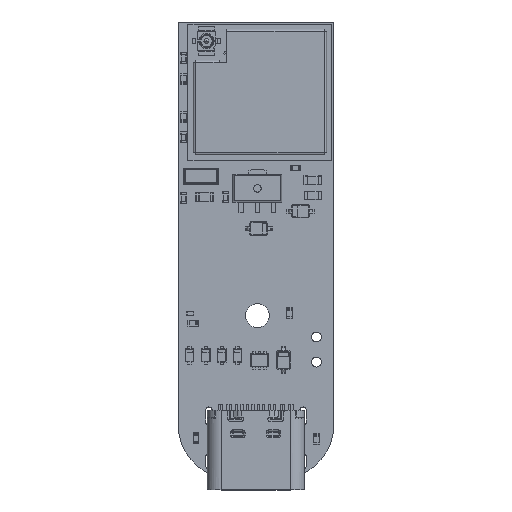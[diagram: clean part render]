
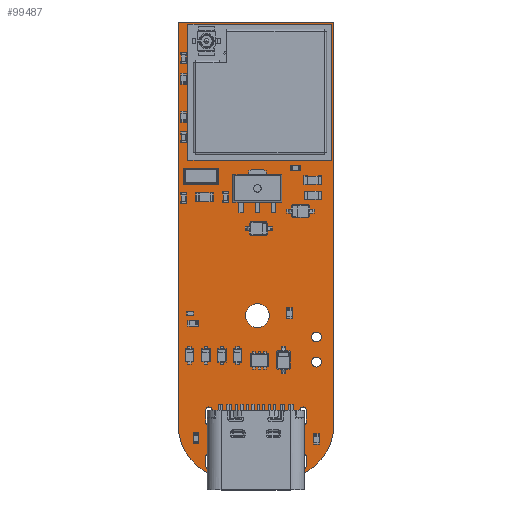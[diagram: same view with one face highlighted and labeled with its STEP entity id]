
A CAD part, top view. The second image highlights one B-rep face of the part: STEP entity #99487.
In plain terms, the highlighted planar face has unit normal (0, 0, 1).
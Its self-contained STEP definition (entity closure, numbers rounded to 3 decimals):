
#99157 = VERTEX_POINT('',#99158);
#99158 = CARTESIAN_POINT('',(108.1,-64.6,0.6));
#99164 = EDGE_CURVE('',#99157,#99165,#99167,.T.);
#99165 = VERTEX_POINT('',#99166);
#99166 = CARTESIAN_POINT('',(103.1,-69.6,0.6));
#99167 = CIRCLE('',#99168,5.);
#99168 = AXIS2_PLACEMENT_3D('',#99169,#99170,#99171);
#99169 = CARTESIAN_POINT('',(103.1,-64.6,0.6));
#99170 = DIRECTION('',(0.,0.,-1.));
#99171 = DIRECTION('',(1.,0.,0.));
#99199 = VERTEX_POINT('',#99200);
#99200 = CARTESIAN_POINT('',(108.1,-27.6,0.6));
#99206 = EDGE_CURVE('',#99199,#99157,#99207,.T.);
#99207 = LINE('',#99208,#99209);
#99208 = CARTESIAN_POINT('',(108.1,-27.6,0.6));
#99209 = VECTOR('',#99210,1.);
#99210 = DIRECTION('',(0.,-1.,0.));
#99228 = EDGE_CURVE('',#99165,#99229,#99231,.T.);
#99229 = VERTEX_POINT('',#99230);
#99230 = CARTESIAN_POINT('',(98.8,-69.6,0.6));
#99231 = LINE('',#99232,#99233);
#99232 = CARTESIAN_POINT('',(103.1,-69.6,0.6));
#99233 = VECTOR('',#99234,1.);
#99234 = DIRECTION('',(-1.,0.,0.));
#99487 = ADVANCED_FACE('',(#99488,#99516,#99552,#99588,#99599,#99635,
    #99646,#99682,#99693,#99704),#99715,.T.);
#99488 = FACE_BOUND('',#99489,.T.);
#99489 = EDGE_LOOP('',(#99490,#99491,#99492,#99500,#99508,#99515));
#99490 = ORIENTED_EDGE('',*,*,#99164,.F.);
#99491 = ORIENTED_EDGE('',*,*,#99206,.F.);
#99492 = ORIENTED_EDGE('',*,*,#99493,.F.);
#99493 = EDGE_CURVE('',#99494,#99199,#99496,.T.);
#99494 = VERTEX_POINT('',#99495);
#99495 = CARTESIAN_POINT('',(93.8,-27.6,0.6));
#99496 = LINE('',#99497,#99498);
#99497 = CARTESIAN_POINT('',(93.8,-27.6,0.6));
#99498 = VECTOR('',#99499,1.);
#99499 = DIRECTION('',(1.,0.,0.));
#99500 = ORIENTED_EDGE('',*,*,#99501,.F.);
#99501 = EDGE_CURVE('',#99502,#99494,#99504,.T.);
#99502 = VERTEX_POINT('',#99503);
#99503 = CARTESIAN_POINT('',(93.8,-64.6,0.6));
#99504 = LINE('',#99505,#99506);
#99505 = CARTESIAN_POINT('',(93.8,-64.6,0.6));
#99506 = VECTOR('',#99507,1.);
#99507 = DIRECTION('',(0.,1.,0.));
#99508 = ORIENTED_EDGE('',*,*,#99509,.F.);
#99509 = EDGE_CURVE('',#99229,#99502,#99510,.T.);
#99510 = CIRCLE('',#99511,5.);
#99511 = AXIS2_PLACEMENT_3D('',#99512,#99513,#99514);
#99512 = CARTESIAN_POINT('',(98.8,-64.6,0.6));
#99513 = DIRECTION('',(0.,0.,-1.));
#99514 = DIRECTION('',(0.,-1.,0.));
#99515 = ORIENTED_EDGE('',*,*,#99228,.F.);
#99516 = FACE_BOUND('',#99517,.T.);
#99517 = EDGE_LOOP('',(#99518,#99529,#99537,#99546));
#99518 = ORIENTED_EDGE('',*,*,#99519,.T.);
#99519 = EDGE_CURVE('',#99520,#99522,#99524,.T.);
#99520 = VERTEX_POINT('',#99521);
#99521 = CARTESIAN_POINT('',(96.925,-68.37,0.6));
#99522 = VERTEX_POINT('',#99523);
#99523 = CARTESIAN_POINT('',(96.325,-68.37,0.6));
#99524 = CIRCLE('',#99525,0.3);
#99525 = AXIS2_PLACEMENT_3D('',#99526,#99527,#99528);
#99526 = CARTESIAN_POINT('',(96.625,-68.37,0.6));
#99527 = DIRECTION('',(-0.,0.,-1.));
#99528 = DIRECTION('',(-1.,0.,0.));
#99529 = ORIENTED_EDGE('',*,*,#99530,.T.);
#99530 = EDGE_CURVE('',#99522,#99531,#99533,.T.);
#99531 = VERTEX_POINT('',#99532);
#99532 = CARTESIAN_POINT('',(96.325,-67.57,0.6));
#99533 = LINE('',#99534,#99535);
#99534 = CARTESIAN_POINT('',(96.325,-33.785,0.6));
#99535 = VECTOR('',#99536,1.);
#99536 = DIRECTION('',(-0.,1.,0.));
#99537 = ORIENTED_EDGE('',*,*,#99538,.T.);
#99538 = EDGE_CURVE('',#99531,#99539,#99541,.T.);
#99539 = VERTEX_POINT('',#99540);
#99540 = CARTESIAN_POINT('',(96.925,-67.57,0.6));
#99541 = CIRCLE('',#99542,0.3);
#99542 = AXIS2_PLACEMENT_3D('',#99543,#99544,#99545);
#99543 = CARTESIAN_POINT('',(96.625,-67.57,0.6));
#99544 = DIRECTION('',(0.,-0.,-1.));
#99545 = DIRECTION('',(1.,0.,-0.));
#99546 = ORIENTED_EDGE('',*,*,#99547,.T.);
#99547 = EDGE_CURVE('',#99539,#99520,#99548,.T.);
#99548 = LINE('',#99549,#99550);
#99549 = CARTESIAN_POINT('',(96.925,-34.185,0.6));
#99550 = VECTOR('',#99551,1.);
#99551 = DIRECTION('',(0.,-1.,0.));
#99552 = FACE_BOUND('',#99553,.T.);
#99553 = EDGE_LOOP('',(#99554,#99565,#99573,#99582));
#99554 = ORIENTED_EDGE('',*,*,#99555,.T.);
#99555 = EDGE_CURVE('',#99556,#99558,#99560,.T.);
#99556 = VERTEX_POINT('',#99557);
#99557 = CARTESIAN_POINT('',(96.925,-64.37,0.6));
#99558 = VERTEX_POINT('',#99559);
#99559 = CARTESIAN_POINT('',(96.325,-64.37,0.6));
#99560 = CIRCLE('',#99561,0.3);
#99561 = AXIS2_PLACEMENT_3D('',#99562,#99563,#99564);
#99562 = CARTESIAN_POINT('',(96.625,-64.37,0.6));
#99563 = DIRECTION('',(-0.,0.,-1.));
#99564 = DIRECTION('',(-1.,0.,0.));
#99565 = ORIENTED_EDGE('',*,*,#99566,.T.);
#99566 = EDGE_CURVE('',#99558,#99567,#99569,.T.);
#99567 = VERTEX_POINT('',#99568);
#99568 = CARTESIAN_POINT('',(96.325,-63.27,0.6));
#99569 = LINE('',#99570,#99571);
#99570 = CARTESIAN_POINT('',(96.325,-31.635,0.6));
#99571 = VECTOR('',#99572,1.);
#99572 = DIRECTION('',(-0.,1.,0.));
#99573 = ORIENTED_EDGE('',*,*,#99574,.T.);
#99574 = EDGE_CURVE('',#99567,#99575,#99577,.T.);
#99575 = VERTEX_POINT('',#99576);
#99576 = CARTESIAN_POINT('',(96.925,-63.27,0.6));
#99577 = CIRCLE('',#99578,0.3);
#99578 = AXIS2_PLACEMENT_3D('',#99579,#99580,#99581);
#99579 = CARTESIAN_POINT('',(96.625,-63.27,0.6));
#99580 = DIRECTION('',(0.,-0.,-1.));
#99581 = DIRECTION('',(1.,0.,-0.));
#99582 = ORIENTED_EDGE('',*,*,#99583,.T.);
#99583 = EDGE_CURVE('',#99575,#99556,#99584,.T.);
#99584 = LINE('',#99585,#99586);
#99585 = CARTESIAN_POINT('',(96.925,-32.185,0.6));
#99586 = VECTOR('',#99587,1.);
#99587 = DIRECTION('',(0.,-1.,0.));
#99588 = FACE_BOUND('',#99589,.T.);
#99589 = EDGE_LOOP('',(#99590));
#99590 = ORIENTED_EDGE('',*,*,#99591,.T.);
#99591 = EDGE_CURVE('',#99592,#99592,#99594,.T.);
#99592 = VERTEX_POINT('',#99593);
#99593 = CARTESIAN_POINT('',(98.06,-64.645,0.6));
#99594 = CIRCLE('',#99595,0.325);
#99595 = AXIS2_PLACEMENT_3D('',#99596,#99597,#99598);
#99596 = CARTESIAN_POINT('',(98.06,-64.32,0.6));
#99597 = DIRECTION('',(-0.,0.,-1.));
#99598 = DIRECTION('',(-0.,-1.,0.));
#99599 = FACE_BOUND('',#99600,.T.);
#99600 = EDGE_LOOP('',(#99601,#99612,#99620,#99629));
#99601 = ORIENTED_EDGE('',*,*,#99602,.T.);
#99602 = EDGE_CURVE('',#99603,#99605,#99607,.T.);
#99603 = VERTEX_POINT('',#99604);
#99604 = CARTESIAN_POINT('',(105.575,-68.37,0.6));
#99605 = VERTEX_POINT('',#99606);
#99606 = CARTESIAN_POINT('',(104.975,-68.37,0.6));
#99607 = CIRCLE('',#99608,0.3);
#99608 = AXIS2_PLACEMENT_3D('',#99609,#99610,#99611);
#99609 = CARTESIAN_POINT('',(105.275,-68.37,0.6));
#99610 = DIRECTION('',(-0.,0.,-1.));
#99611 = DIRECTION('',(-1.,0.,0.));
#99612 = ORIENTED_EDGE('',*,*,#99613,.T.);
#99613 = EDGE_CURVE('',#99605,#99614,#99616,.T.);
#99614 = VERTEX_POINT('',#99615);
#99615 = CARTESIAN_POINT('',(104.975,-67.57,0.6));
#99616 = LINE('',#99617,#99618);
#99617 = CARTESIAN_POINT('',(104.975,-33.785,0.6));
#99618 = VECTOR('',#99619,1.);
#99619 = DIRECTION('',(-0.,1.,0.));
#99620 = ORIENTED_EDGE('',*,*,#99621,.T.);
#99621 = EDGE_CURVE('',#99614,#99622,#99624,.T.);
#99622 = VERTEX_POINT('',#99623);
#99623 = CARTESIAN_POINT('',(105.575,-67.57,0.6));
#99624 = CIRCLE('',#99625,0.3);
#99625 = AXIS2_PLACEMENT_3D('',#99626,#99627,#99628);
#99626 = CARTESIAN_POINT('',(105.275,-67.57,0.6));
#99627 = DIRECTION('',(0.,-0.,-1.));
#99628 = DIRECTION('',(1.,0.,-0.));
#99629 = ORIENTED_EDGE('',*,*,#99630,.T.);
#99630 = EDGE_CURVE('',#99622,#99603,#99631,.T.);
#99631 = LINE('',#99632,#99633);
#99632 = CARTESIAN_POINT('',(105.575,-34.185,0.6));
#99633 = VECTOR('',#99634,1.);
#99634 = DIRECTION('',(0.,-1.,0.));
#99635 = FACE_BOUND('',#99636,.T.);
#99636 = EDGE_LOOP('',(#99637));
#99637 = ORIENTED_EDGE('',*,*,#99638,.T.);
#99638 = EDGE_CURVE('',#99639,#99639,#99641,.T.);
#99639 = VERTEX_POINT('',#99640);
#99640 = CARTESIAN_POINT('',(103.84,-64.645,0.6));
#99641 = CIRCLE('',#99642,0.325);
#99642 = AXIS2_PLACEMENT_3D('',#99643,#99644,#99645);
#99643 = CARTESIAN_POINT('',(103.84,-64.32,0.6));
#99644 = DIRECTION('',(-0.,0.,-1.));
#99645 = DIRECTION('',(-0.,-1.,0.));
#99646 = FACE_BOUND('',#99647,.T.);
#99647 = EDGE_LOOP('',(#99648,#99659,#99667,#99676));
#99648 = ORIENTED_EDGE('',*,*,#99649,.T.);
#99649 = EDGE_CURVE('',#99650,#99652,#99654,.T.);
#99650 = VERTEX_POINT('',#99651);
#99651 = CARTESIAN_POINT('',(105.575,-64.37,0.6));
#99652 = VERTEX_POINT('',#99653);
#99653 = CARTESIAN_POINT('',(104.975,-64.37,0.6));
#99654 = CIRCLE('',#99655,0.3);
#99655 = AXIS2_PLACEMENT_3D('',#99656,#99657,#99658);
#99656 = CARTESIAN_POINT('',(105.275,-64.37,0.6));
#99657 = DIRECTION('',(-0.,0.,-1.));
#99658 = DIRECTION('',(-1.,0.,0.));
#99659 = ORIENTED_EDGE('',*,*,#99660,.T.);
#99660 = EDGE_CURVE('',#99652,#99661,#99663,.T.);
#99661 = VERTEX_POINT('',#99662);
#99662 = CARTESIAN_POINT('',(104.975,-63.27,0.6));
#99663 = LINE('',#99664,#99665);
#99664 = CARTESIAN_POINT('',(104.975,-31.635,0.6));
#99665 = VECTOR('',#99666,1.);
#99666 = DIRECTION('',(-0.,1.,0.));
#99667 = ORIENTED_EDGE('',*,*,#99668,.T.);
#99668 = EDGE_CURVE('',#99661,#99669,#99671,.T.);
#99669 = VERTEX_POINT('',#99670);
#99670 = CARTESIAN_POINT('',(105.575,-63.27,0.6));
#99671 = CIRCLE('',#99672,0.3);
#99672 = AXIS2_PLACEMENT_3D('',#99673,#99674,#99675);
#99673 = CARTESIAN_POINT('',(105.275,-63.27,0.6));
#99674 = DIRECTION('',(0.,-0.,-1.));
#99675 = DIRECTION('',(1.,0.,-0.));
#99676 = ORIENTED_EDGE('',*,*,#99677,.T.);
#99677 = EDGE_CURVE('',#99669,#99650,#99678,.T.);
#99678 = LINE('',#99679,#99680);
#99679 = CARTESIAN_POINT('',(105.575,-32.185,0.6));
#99680 = VECTOR('',#99681,1.);
#99681 = DIRECTION('',(0.,-1.,0.));
#99682 = FACE_BOUND('',#99683,.T.);
#99683 = EDGE_LOOP('',(#99684));
#99684 = ORIENTED_EDGE('',*,*,#99685,.T.);
#99685 = EDGE_CURVE('',#99686,#99686,#99688,.T.);
#99686 = VERTEX_POINT('',#99687);
#99687 = CARTESIAN_POINT('',(101.08,-55.68,0.6));
#99688 = CIRCLE('',#99689,1.1);
#99689 = AXIS2_PLACEMENT_3D('',#99690,#99691,#99692);
#99690 = CARTESIAN_POINT('',(101.08,-54.58,0.6));
#99691 = DIRECTION('',(-0.,0.,-1.));
#99692 = DIRECTION('',(0.,-1.,0.));
#99693 = FACE_BOUND('',#99694,.T.);
#99694 = EDGE_LOOP('',(#99695));
#99695 = ORIENTED_EDGE('',*,*,#99696,.T.);
#99696 = EDGE_CURVE('',#99697,#99697,#99699,.T.);
#99697 = VERTEX_POINT('',#99698);
#99698 = CARTESIAN_POINT('',(106.5,-59.3,0.6));
#99699 = CIRCLE('',#99700,0.45);
#99700 = AXIS2_PLACEMENT_3D('',#99701,#99702,#99703);
#99701 = CARTESIAN_POINT('',(106.5,-58.85,0.6));
#99702 = DIRECTION('',(-0.,0.,-1.));
#99703 = DIRECTION('',(-0.,-1.,0.));
#99704 = FACE_BOUND('',#99705,.T.);
#99705 = EDGE_LOOP('',(#99706));
#99706 = ORIENTED_EDGE('',*,*,#99707,.T.);
#99707 = EDGE_CURVE('',#99708,#99708,#99710,.T.);
#99708 = VERTEX_POINT('',#99709);
#99709 = CARTESIAN_POINT('',(106.5,-57.,0.6));
#99710 = CIRCLE('',#99711,0.45);
#99711 = AXIS2_PLACEMENT_3D('',#99712,#99713,#99714);
#99712 = CARTESIAN_POINT('',(106.5,-56.55,0.6));
#99713 = DIRECTION('',(-0.,0.,-1.));
#99714 = DIRECTION('',(-0.,-1.,0.));
#99715 = PLANE('',#99716);
#99716 = AXIS2_PLACEMENT_3D('',#99717,#99718,#99719);
#99717 = CARTESIAN_POINT('',(0.,0.,0.6));
#99718 = DIRECTION('',(0.,0.,1.));
#99719 = DIRECTION('',(1.,0.,-0.));
